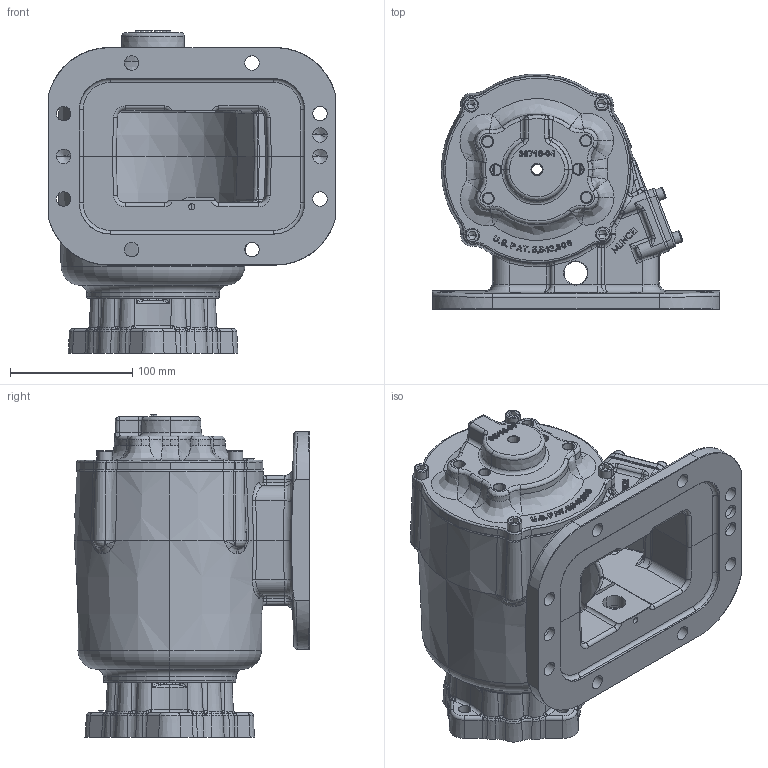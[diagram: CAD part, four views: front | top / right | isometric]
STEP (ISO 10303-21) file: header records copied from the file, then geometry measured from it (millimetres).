
FILE_DESCRIPTION (( 'STEP AP203' ), '1' );
FILE_NAME ('CS8S-XXXXX-E1DX.STEP', '2023-04-28T14:30:06', ( '' ), ( '' ), 'SwSTEP 2.0', 'SolidWorks 2021', '' );
FILE_SCHEMA (( 'CONFIG_CONTROL_DESIGN' ));
Length unit declared in the file: inch
Products named in the file (10): 16t34000; 19T35237; 01T42182_01T42182; 14TA4817_Config1; 10T21017; 19T41118; 14T39406; 11T37795; CS8S-XXXXX-E1DX; 15T36717
Assembly tree (15 placements, depth 3):
  CS8S-XXXXX-E1DX
    16t34000
    15T36717
    01T42182_01T42182
    10T21017
    14TA4817_Config1
      14T39406
      11T37795
    19T41118  x4
    19T35237  x4
Bounding box: 234.96 x 192.24 x 263.64 mm (x, y, z)
Volume: 1612977.7 mm3; surface area: 453587.9 mm2
Topology: 14 solids, 15 shells, 2305 faces, 5908 edges, 3628 vertices
Faces by surface type: bspline 812, plane 534, cylinder 423, cone 291, torus 221, sphere 24
Entity records: 103205 total; most frequent: CARTESIAN_POINT 54885, ORIENTED_EDGE 10996, DIRECTION 8126, EDGE_CURVE 5498, VERTEX_POINT 3415, AXIS2_PLACEMENT_3D 3109, EDGE_LOOP 2377, ADVANCED_FACE 2173
